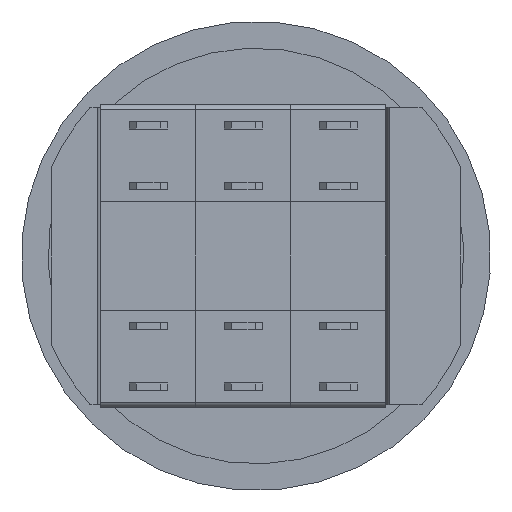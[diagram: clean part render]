
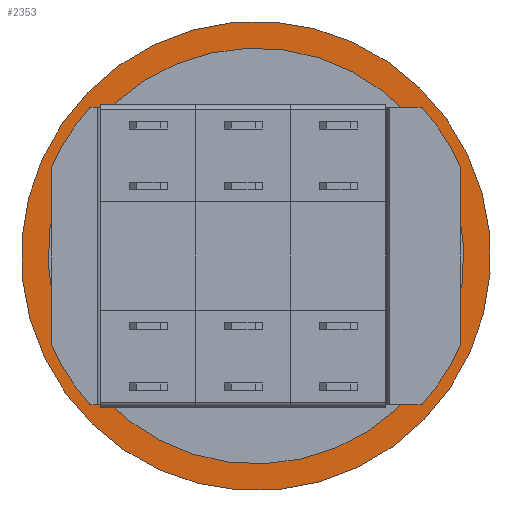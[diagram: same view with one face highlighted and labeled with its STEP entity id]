
A CAD part, front view. The second image highlights one B-rep face of the part: STEP entity #2353.
In plain terms, the highlighted planar face has unit normal (0, -1, 0) as drawn and (0, 0, -1) by its records, which use the part's own axes.
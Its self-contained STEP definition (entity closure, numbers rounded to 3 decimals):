
#561 = CIRCLE ( 'NONE', #6455, 12.6 ) ;
#714 = DIRECTION ( 'NONE',  ( -0.992, 0.126, 0. ) ) ;
#864 = CARTESIAN_POINT ( 'NONE',  ( 12.499, -1.593, -2.2 ) ) ;
#878 = VERTEX_POINT ( 'NONE', #2344 ) ;
#954 = FACE_BOUND ( 'NONE', #6179, .T. ) ;
#1438 = ORIENTED_EDGE ( 'NONE', *, *, #2391, .T. ) ;
#1580 = DIRECTION ( 'NONE',  ( -0.992, 0.126, 0. ) ) ;
#1631 = CARTESIAN_POINT ( 'NONE',  ( 0., 0., -2.2 ) ) ;
#1883 = ORIENTED_EDGE ( 'NONE', *, *, #3698, .T. ) ;
#1908 = EDGE_CURVE ( 'NONE', #4720, #878, #2887, .T. ) ;
#1980 = CIRCLE ( 'NONE', #4496, 15.8 ) ;
#2344 = CARTESIAN_POINT ( 'NONE',  ( -15.673, 1.997, -2.2 ) ) ;
#2353 = ADVANCED_FACE ( 'NONE', ( #954, #7522 ), #6770, .T. ) ;
#2361 = VERTEX_POINT ( 'NONE', #3346 ) ;
#2391 = EDGE_CURVE ( 'NONE', #4715, #2361, #7945, .T. ) ;
#2556 = DIRECTION ( 'NONE',  ( -0.992, 0.126, 0. ) ) ;
#2571 = ORIENTED_EDGE ( 'NONE', *, *, #5632, .F. ) ;
#2887 = CIRCLE ( 'NONE', #2959, 15.8 ) ;
#2930 = DIRECTION ( 'NONE',  ( 0., 0., 1. ) ) ;
#2959 = AXIS2_PLACEMENT_3D ( 'NONE', #5679, #5074, #714 ) ;
#3346 = CARTESIAN_POINT ( 'NONE',  ( -12.499, 1.593, -2.2 ) ) ;
#3698 = EDGE_CURVE ( 'NONE', #2361, #4715, #561, .T. ) ;
#3767 = DIRECTION ( 'NONE',  ( 0., 0., -1. ) ) ;
#4267 = ORIENTED_EDGE ( 'NONE', *, *, #1908, .F. ) ;
#4496 = AXIS2_PLACEMENT_3D ( 'NONE', #7613, #5057, #5692 ) ;
#4715 = VERTEX_POINT ( 'NONE', #864 ) ;
#4720 = VERTEX_POINT ( 'NONE', #8246 ) ;
#4873 = AXIS2_PLACEMENT_3D ( 'NONE', #6032, #3767, #6240 ) ;
#4883 = EDGE_LOOP ( 'NONE', ( #2571, #4267 ) ) ;
#5057 = DIRECTION ( 'NONE',  ( 0., 0., 1. ) ) ;
#5074 = DIRECTION ( 'NONE',  ( 0., 0., 1. ) ) ;
#5632 = EDGE_CURVE ( 'NONE', #878, #4720, #1980, .T. ) ;
#5679 = CARTESIAN_POINT ( 'NONE',  ( 0., 0., -2.2 ) ) ;
#5692 = DIRECTION ( 'NONE',  ( -0.992, 0.126, 0. ) ) ;
#6032 = CARTESIAN_POINT ( 'NONE',  ( -12.499, 1.593, -2.2 ) ) ;
#6179 = EDGE_LOOP ( 'NONE', ( #1883, #1438 ) ) ;
#6240 = DIRECTION ( 'NONE',  ( 0.992, -0.126, 0. ) ) ;
#6455 = AXIS2_PLACEMENT_3D ( 'NONE', #1631, #2930, #1580 ) ;
#6502 = CARTESIAN_POINT ( 'NONE',  ( 0., 0., -2.2 ) ) ;
#6583 = DIRECTION ( 'NONE',  ( 0., 0., 1. ) ) ;
#6770 = PLANE ( 'NONE',  #4873 ) ;
#7522 = FACE_OUTER_BOUND ( 'NONE', #4883, .T. ) ;
#7613 = CARTESIAN_POINT ( 'NONE',  ( 0., 0., -2.2 ) ) ;
#7945 = CIRCLE ( 'NONE', #8170, 12.6 ) ;
#8170 = AXIS2_PLACEMENT_3D ( 'NONE', #6502, #6583, #2556 ) ;
#8246 = CARTESIAN_POINT ( 'NONE',  ( 15.673, -1.997, -2.2 ) ) ;
